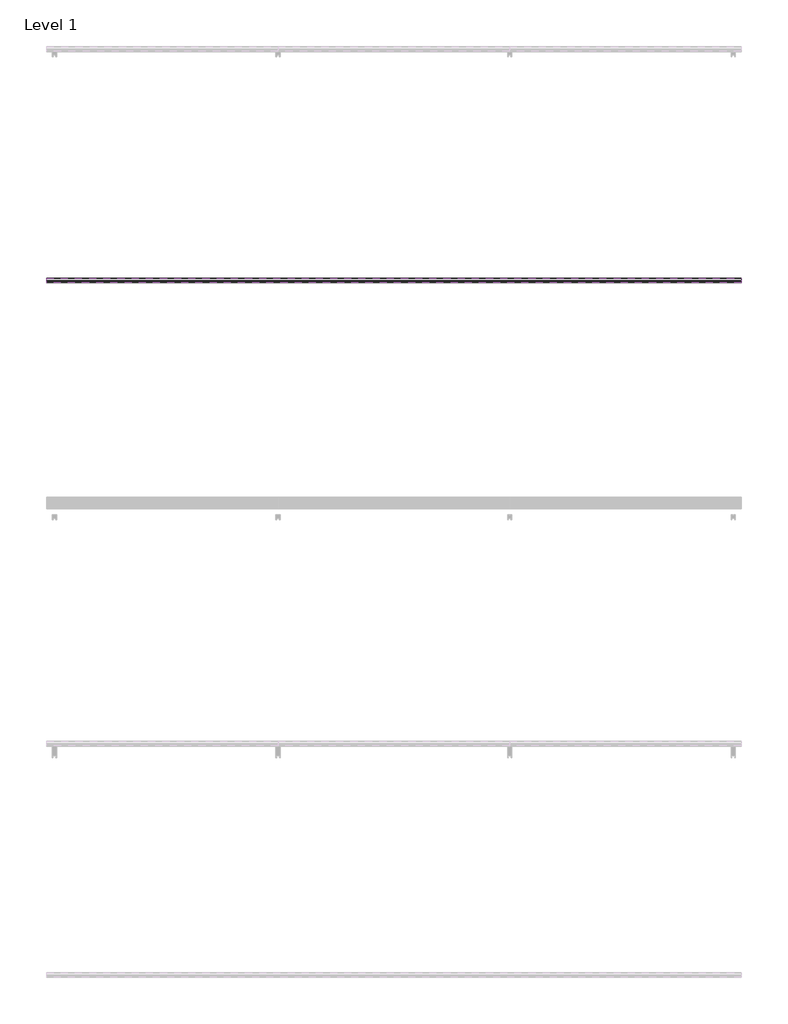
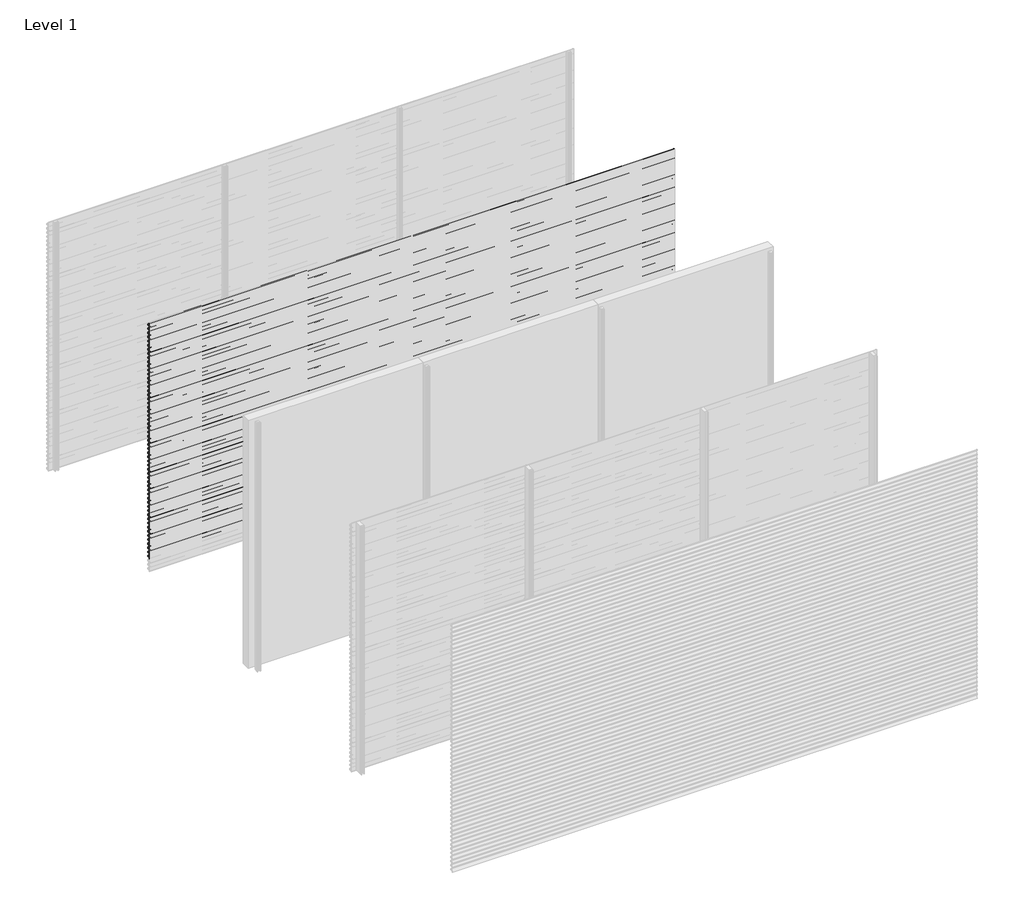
# One storey, part 28 of 38: 66 proxies.
"""IFC4 building model written with IfcOpenShell, lengths in millimetres."""

from ifc_helpers import new_model, si_unit, frame, origin, place, context, project, spatial, polyline, outline, extrude, element, save

model = new_model("IFC4")

# Units and contexts
model_context = context("Model", 3, world=origin())
ifc_project = project(units=[si_unit("LENGTHUNIT", "METRE", prefix="MILLI")], contexts=[model_context])

# Site, building, storey
site = spatial("IfcSite", under=ifc_project)
building = spatial("IfcBuilding", under=site)
storey = spatial("IfcBuildingStorey", under=building, Name="Level 1", Elevation=0.0)

# Proxies
placement = place(None, origin())
element("IfcBuildingElementProxy", 1, Name="Wall Sweeps", at=placement, inside=storey, context=model_context, shape_type="SweptSolid", body=[
    extrude(outline(polyline([(-13996.75, 3000.0), (-13996.75, 2989.19656), (-13974.6057113, 2976.4115489), (-13957.0, 2959.0472005), (-13957.0, 2944.0472005), (-13958.3, 2945.0268207), (-13958.3, 2958.5034593), (-13969.4914725, 2969.541504), (-13994.2797376, 2940.0), (-13995.9767671, 2940.0), (-13970.4200307, 2970.4573323), (-13975.3999793, 2975.3690091), (-13998.0, 2988.4171371), (-13998.0, 3000.0), (-13996.75, 3000.0)])), frame((0.0, 0.0, 0.0), z_axis=(1.0, 0.0, 0.0), x_axis=(0.0, 1.0, 0.0)), (0.0, 0.0, 1.0), 6000.0),
])
element("IfcBuildingElementProxy", 2, Name="Wall Sweeps", at=placement, inside=storey, context=model_context, shape_type="SweptSolid", body=[
    extrude(outline(polyline([(-13996.75, 2950.0), (-13996.75, 2939.19656), (-13974.6057113, 2926.4115489), (-13957.0, 2909.0472005), (-13957.0, 2894.0472005), (-13958.3, 2895.0268207), (-13958.3, 2908.5034593), (-13969.4914725, 2919.541504), (-13994.2797376, 2890.0), (-13995.9767671, 2890.0), (-13970.4200307, 2920.4573323), (-13975.3999793, 2925.3690091), (-13998.0, 2938.4171371), (-13998.0, 2950.0), (-13996.75, 2950.0)])), frame((0.0, 0.0, 0.0), z_axis=(1.0, 0.0, 0.0), x_axis=(0.0, 1.0, 0.0)), (0.0, 0.0, 1.0), 6000.0),
])
element("IfcBuildingElementProxy", 3, Name="Wall Sweeps", at=placement, inside=storey, context=model_context, shape_type="SweptSolid", body=[
    extrude(outline(polyline([(-13996.75, 2900.0), (-13996.75, 2889.19656), (-13974.6057113, 2876.4115489), (-13957.0, 2859.0472005), (-13957.0, 2844.0472005), (-13958.3, 2845.0268207), (-13958.3, 2858.5034593), (-13969.4914725, 2869.541504), (-13994.2797376, 2840.0), (-13995.9767671, 2840.0), (-13970.4200307, 2870.4573323), (-13975.3999793, 2875.3690091), (-13998.0, 2888.4171371), (-13998.0, 2900.0), (-13996.75, 2900.0)])), frame((0.0, 0.0, 0.0), z_axis=(1.0, 0.0, 0.0), x_axis=(0.0, 1.0, 0.0)), (0.0, 0.0, 1.0), 6000.0),
])
element("IfcBuildingElementProxy", 4, Name="Wall Sweeps", at=placement, inside=storey, context=model_context, shape_type="SweptSolid", body=[
    extrude(outline(polyline([(-13996.75, 2850.0), (-13996.75, 2839.19656), (-13974.6057113, 2826.4115489), (-13957.0, 2809.0472005), (-13957.0, 2794.0472005), (-13958.3, 2795.0268207), (-13958.3, 2808.5034593), (-13969.4914725, 2819.541504), (-13994.2797376, 2790.0), (-13995.9767671, 2790.0), (-13970.4200307, 2820.4573323), (-13975.3999793, 2825.3690091), (-13998.0, 2838.4171371), (-13998.0, 2850.0), (-13996.75, 2850.0)])), frame((0.0, 0.0, 0.0), z_axis=(1.0, 0.0, 0.0), x_axis=(0.0, 1.0, 0.0)), (0.0, 0.0, 1.0), 6000.0),
])
element("IfcBuildingElementProxy", 5, Name="Wall Sweeps", at=placement, inside=storey, context=model_context, shape_type="SweptSolid", body=[
    extrude(outline(polyline([(-13996.75, 2800.0), (-13996.75, 2789.19656), (-13974.6057113, 2776.4115489), (-13957.0, 2759.0472005), (-13957.0, 2744.0472005), (-13958.3, 2745.0268207), (-13958.3, 2758.5034593), (-13969.4914725, 2769.541504), (-13994.2797376, 2740.0), (-13995.9767671, 2740.0), (-13970.4200307, 2770.4573323), (-13975.3999793, 2775.3690091), (-13998.0, 2788.4171371), (-13998.0, 2800.0), (-13996.75, 2800.0)])), frame((0.0, 0.0, 0.0), z_axis=(1.0, 0.0, 0.0), x_axis=(0.0, 1.0, 0.0)), (0.0, 0.0, 1.0), 6000.0),
])
element("IfcBuildingElementProxy", 6, Name="Wall Sweeps", at=placement, inside=storey, context=model_context, shape_type="SweptSolid", body=[
    extrude(outline(polyline([(-13996.75, 2750.0), (-13996.75, 2739.19656), (-13974.6057113, 2726.4115489), (-13957.0, 2709.0472005), (-13957.0, 2694.0472005), (-13958.3, 2695.0268207), (-13958.3, 2708.5034593), (-13969.4914725, 2719.541504), (-13994.2797376, 2690.0), (-13995.9767671, 2690.0), (-13970.4200307, 2720.4573323), (-13975.3999793, 2725.3690091), (-13998.0, 2738.4171371), (-13998.0, 2750.0), (-13996.75, 2750.0)])), frame((0.0, 0.0, 0.0), z_axis=(1.0, 0.0, 0.0), x_axis=(0.0, 1.0, 0.0)), (0.0, 0.0, 1.0), 6000.0),
])
element("IfcBuildingElementProxy", 7, Name="Wall Sweeps", at=placement, inside=storey, context=model_context, shape_type="SweptSolid", body=[
    extrude(outline(polyline([(-13996.75, 2700.0), (-13996.75, 2689.19656), (-13974.6057113, 2676.4115489), (-13957.0, 2659.0472005), (-13957.0, 2644.0472005), (-13958.3, 2645.0268207), (-13958.3, 2658.5034593), (-13969.4914725, 2669.541504), (-13994.2797376, 2640.0), (-13995.9767671, 2640.0), (-13970.4200307, 2670.4573323), (-13975.3999793, 2675.3690091), (-13998.0, 2688.4171371), (-13998.0, 2700.0), (-13996.75, 2700.0)])), frame((0.0, 0.0, 0.0), z_axis=(1.0, 0.0, 0.0), x_axis=(0.0, 1.0, 0.0)), (0.0, 0.0, 1.0), 6000.0),
])
element("IfcBuildingElementProxy", 8, Name="Wall Sweeps", at=placement, inside=storey, context=model_context, shape_type="SweptSolid", body=[
    extrude(outline(polyline([(-13996.75, 2650.0), (-13996.75, 2639.19656), (-13974.6057113, 2626.4115489), (-13957.0, 2609.0472005), (-13957.0, 2594.0472005), (-13958.3, 2595.0268207), (-13958.3, 2608.5034593), (-13969.4914725, 2619.541504), (-13994.2797376, 2590.0), (-13995.9767671, 2590.0), (-13970.4200307, 2620.4573323), (-13975.3999793, 2625.3690091), (-13998.0, 2638.4171371), (-13998.0, 2650.0), (-13996.75, 2650.0)])), frame((0.0, 0.0, 0.0), z_axis=(1.0, 0.0, 0.0), x_axis=(0.0, 1.0, 0.0)), (0.0, 0.0, 1.0), 6000.0),
])
element("IfcBuildingElementProxy", 9, Name="Wall Sweeps", at=placement, inside=storey, context=model_context, shape_type="SweptSolid", body=[
    extrude(outline(polyline([(-13996.75, 2600.0), (-13996.75, 2589.19656), (-13974.6057113, 2576.4115489), (-13957.0, 2559.0472005), (-13957.0, 2544.0472005), (-13958.3, 2545.0268207), (-13958.3, 2558.5034593), (-13969.4914725, 2569.541504), (-13994.2797376, 2540.0), (-13995.9767671, 2540.0), (-13970.4200307, 2570.4573323), (-13975.3999793, 2575.3690091), (-13998.0, 2588.4171371), (-13998.0, 2600.0), (-13996.75, 2600.0)])), frame((0.0, 0.0, 0.0), z_axis=(1.0, 0.0, 0.0), x_axis=(0.0, 1.0, 0.0)), (0.0, 0.0, 1.0), 6000.0),
])
element("IfcBuildingElementProxy", 10, Name="Wall Sweeps", at=placement, inside=storey, context=model_context, shape_type="SweptSolid", body=[
    extrude(outline(polyline([(-13996.75, 2550.0), (-13996.75, 2539.19656), (-13974.6057113, 2526.4115489), (-13957.0, 2509.0472005), (-13957.0, 2494.0472005), (-13958.3, 2495.0268207), (-13958.3, 2508.5034593), (-13969.4914725, 2519.541504), (-13994.2797376, 2490.0), (-13995.9767671, 2490.0), (-13970.4200307, 2520.4573323), (-13975.3999793, 2525.3690091), (-13998.0, 2538.4171371), (-13998.0, 2550.0), (-13996.75, 2550.0)])), frame((0.0, 0.0, 0.0), z_axis=(1.0, 0.0, 0.0), x_axis=(0.0, 1.0, 0.0)), (0.0, 0.0, 1.0), 6000.0),
])
element("IfcBuildingElementProxy", 11, Name="Wall Sweeps", at=placement, inside=storey, context=model_context, shape_type="SweptSolid", body=[
    extrude(outline(polyline([(-13996.75, 2500.0), (-13996.75, 2489.19656), (-13974.6057113, 2476.4115489), (-13957.0, 2459.0472005), (-13957.0, 2444.0472005), (-13958.3, 2445.0268207), (-13958.3, 2458.5034593), (-13969.4914725, 2469.541504), (-13994.2797376, 2440.0), (-13995.9767671, 2440.0), (-13970.4200307, 2470.4573323), (-13975.3999793, 2475.3690091), (-13998.0, 2488.4171371), (-13998.0, 2500.0), (-13996.75, 2500.0)])), frame((0.0, 0.0, 0.0), z_axis=(1.0, 0.0, 0.0), x_axis=(0.0, 1.0, 0.0)), (0.0, 0.0, 1.0), 6000.0),
])
element("IfcBuildingElementProxy", 12, Name="Wall Sweeps", at=placement, inside=storey, context=model_context, shape_type="SweptSolid", body=[
    extrude(outline(polyline([(-13996.75, 2450.0), (-13996.75, 2439.19656), (-13974.6057113, 2426.4115489), (-13957.0, 2409.0472005), (-13957.0, 2394.0472005), (-13958.3, 2395.0268207), (-13958.3, 2408.5034593), (-13969.4914725, 2419.541504), (-13994.2797376, 2390.0), (-13995.9767671, 2390.0), (-13970.4200307, 2420.4573323), (-13975.3999793, 2425.3690091), (-13998.0, 2438.4171371), (-13998.0, 2450.0), (-13996.75, 2450.0)])), frame((0.0, 0.0, 0.0), z_axis=(1.0, 0.0, 0.0), x_axis=(0.0, 1.0, 0.0)), (0.0, 0.0, 1.0), 6000.0),
])
element("IfcBuildingElementProxy", 13, Name="Wall Sweeps", at=placement, inside=storey, context=model_context, shape_type="SweptSolid", body=[
    extrude(outline(polyline([(-13996.75, 2400.0), (-13996.75, 2389.19656), (-13974.6057113, 2376.4115489), (-13957.0, 2359.0472005), (-13957.0, 2344.0472005), (-13958.3, 2345.0268207), (-13958.3, 2358.5034593), (-13969.4914725, 2369.541504), (-13994.2797376, 2340.0), (-13995.9767671, 2340.0), (-13970.4200307, 2370.4573323), (-13975.3999793, 2375.3690091), (-13998.0, 2388.4171371), (-13998.0, 2400.0), (-13996.75, 2400.0)])), frame((0.0, 0.0, 0.0), z_axis=(1.0, 0.0, 0.0), x_axis=(0.0, 1.0, 0.0)), (0.0, 0.0, 1.0), 6000.0),
])
element("IfcBuildingElementProxy", 14, Name="Wall Sweeps", at=placement, inside=storey, context=model_context, shape_type="SweptSolid", body=[
    extrude(outline(polyline([(-13996.75, 2350.0), (-13996.75, 2339.19656), (-13974.6057113, 2326.4115489), (-13957.0, 2309.0472005), (-13957.0, 2294.0472005), (-13958.3, 2295.0268207), (-13958.3, 2308.5034593), (-13969.4914725, 2319.541504), (-13994.2797376, 2290.0), (-13995.9767671, 2290.0), (-13970.4200307, 2320.4573323), (-13975.3999793, 2325.3690091), (-13998.0, 2338.4171371), (-13998.0, 2350.0), (-13996.75, 2350.0)])), frame((0.0, 0.0, 0.0), z_axis=(1.0, 0.0, 0.0), x_axis=(0.0, 1.0, 0.0)), (0.0, 0.0, 1.0), 6000.0),
])
element("IfcBuildingElementProxy", 15, Name="Wall Sweeps", at=placement, inside=storey, context=model_context, shape_type="SweptSolid", body=[
    extrude(outline(polyline([(-13996.75, 2300.0), (-13996.75, 2289.19656), (-13974.6057113, 2276.4115489), (-13957.0, 2259.0472005), (-13957.0, 2244.0472005), (-13958.3, 2245.0268207), (-13958.3, 2258.5034593), (-13969.4914725, 2269.541504), (-13994.2797376, 2240.0), (-13995.9767671, 2240.0), (-13970.4200307, 2270.4573323), (-13975.3999793, 2275.3690091), (-13998.0, 2288.4171371), (-13998.0, 2300.0), (-13996.75, 2300.0)])), frame((0.0, 0.0, 0.0), z_axis=(1.0, 0.0, 0.0), x_axis=(0.0, 1.0, 0.0)), (0.0, 0.0, 1.0), 6000.0),
])
element("IfcBuildingElementProxy", 16, Name="Wall Sweeps", at=placement, inside=storey, context=model_context, shape_type="SweptSolid", body=[
    extrude(outline(polyline([(-13996.75, 2250.0), (-13996.75, 2239.19656), (-13974.6057113, 2226.4115489), (-13957.0, 2209.0472005), (-13957.0, 2194.0472005), (-13958.3, 2195.0268207), (-13958.3, 2208.5034593), (-13969.4914725, 2219.541504), (-13994.2797376, 2190.0), (-13995.9767671, 2190.0), (-13970.4200307, 2220.4573323), (-13975.3999793, 2225.3690091), (-13998.0, 2238.4171371), (-13998.0, 2250.0), (-13996.75, 2250.0)])), frame((0.0, 0.0, 0.0), z_axis=(1.0, 0.0, 0.0), x_axis=(0.0, 1.0, 0.0)), (0.0, 0.0, 1.0), 6000.0),
])
element("IfcBuildingElementProxy", 17, Name="Wall Sweeps", at=placement, inside=storey, context=model_context, shape_type="SweptSolid", body=[
    extrude(outline(polyline([(-13996.75, 2200.0), (-13996.75, 2189.19656), (-13974.6057113, 2176.4115489), (-13957.0, 2159.0472005), (-13957.0, 2144.0472005), (-13958.3, 2145.0268207), (-13958.3, 2158.5034593), (-13969.4914725, 2169.541504), (-13994.2797376, 2140.0), (-13995.9767671, 2140.0), (-13970.4200307, 2170.4573323), (-13975.3999793, 2175.3690091), (-13998.0, 2188.4171371), (-13998.0, 2200.0), (-13996.75, 2200.0)])), frame((0.0, 0.0, 0.0), z_axis=(1.0, 0.0, 0.0), x_axis=(0.0, 1.0, 0.0)), (0.0, 0.0, 1.0), 6000.0),
])
element("IfcBuildingElementProxy", 18, Name="Wall Sweeps", at=placement, inside=storey, context=model_context, shape_type="SweptSolid", body=[
    extrude(outline(polyline([(-13996.75, 2150.0), (-13996.75, 2139.19656), (-13974.6057113, 2126.4115489), (-13957.0, 2109.0472005), (-13957.0, 2094.0472005), (-13958.3, 2095.0268207), (-13958.3, 2108.5034593), (-13969.4914725, 2119.541504), (-13994.2797376, 2090.0), (-13995.9767671, 2090.0), (-13970.4200307, 2120.4573323), (-13975.3999793, 2125.3690091), (-13998.0, 2138.4171371), (-13998.0, 2150.0), (-13996.75, 2150.0)])), frame((0.0, 0.0, 0.0), z_axis=(1.0, 0.0, 0.0), x_axis=(0.0, 1.0, 0.0)), (0.0, 0.0, 1.0), 6000.0),
])
element("IfcBuildingElementProxy", 19, Name="Wall Sweeps", at=placement, inside=storey, context=model_context, shape_type="SweptSolid", body=[
    extrude(outline(polyline([(-13996.75, 2100.0), (-13996.75, 2089.19656), (-13974.6057113, 2076.4115489), (-13957.0, 2059.0472005), (-13957.0, 2044.0472005), (-13958.3, 2045.0268207), (-13958.3, 2058.5034593), (-13969.4914725, 2069.541504), (-13994.2797376, 2040.0), (-13995.9767671, 2040.0), (-13970.4200307, 2070.4573323), (-13975.3999793, 2075.3690091), (-13998.0, 2088.4171371), (-13998.0, 2100.0), (-13996.75, 2100.0)])), frame((0.0, 0.0, 0.0), z_axis=(1.0, 0.0, 0.0), x_axis=(0.0, 1.0, 0.0)), (0.0, 0.0, 1.0), 6000.0),
])
element("IfcBuildingElementProxy", 20, Name="Wall Sweeps", at=placement, inside=storey, context=model_context, shape_type="SweptSolid", body=[
    extrude(outline(polyline([(-13996.75, 2050.0), (-13996.75, 2039.19656), (-13974.6057113, 2026.4115489), (-13957.0, 2009.0472005), (-13957.0, 1994.0472005), (-13958.3, 1995.0268207), (-13958.3, 2008.5034593), (-13969.4914725, 2019.541504), (-13994.2797376, 1990.0), (-13995.9767671, 1990.0), (-13970.4200307, 2020.4573323), (-13975.3999793, 2025.3690091), (-13998.0, 2038.4171371), (-13998.0, 2050.0), (-13996.75, 2050.0)])), frame((0.0, 0.0, 0.0), z_axis=(1.0, 0.0, 0.0), x_axis=(0.0, 1.0, 0.0)), (0.0, 0.0, 1.0), 6000.0),
])
element("IfcBuildingElementProxy", 21, Name="Wall Sweeps", at=placement, inside=storey, context=model_context, shape_type="SweptSolid", body=[
    extrude(outline(polyline([(-13996.75, 2000.0), (-13996.75, 1989.19656), (-13974.6057113, 1976.4115489), (-13957.0, 1959.0472005), (-13957.0, 1944.0472005), (-13958.3, 1945.0268207), (-13958.3, 1958.5034593), (-13969.4914725, 1969.541504), (-13994.2797376, 1940.0), (-13995.9767671, 1940.0), (-13970.4200307, 1970.4573323), (-13975.3999793, 1975.3690091), (-13998.0, 1988.4171371), (-13998.0, 2000.0), (-13996.75, 2000.0)])), frame((0.0, 0.0, 0.0), z_axis=(1.0, 0.0, 0.0), x_axis=(0.0, 1.0, 0.0)), (0.0, 0.0, 1.0), 6000.0),
])
element("IfcBuildingElementProxy", 22, Name="Wall Sweeps", at=placement, inside=storey, context=model_context, shape_type="SweptSolid", body=[
    extrude(outline(polyline([(-13996.75, 1950.0), (-13996.75, 1939.19656), (-13974.6057113, 1926.4115489), (-13957.0, 1909.0472005), (-13957.0, 1894.0472005), (-13958.3, 1895.0268207), (-13958.3, 1908.5034593), (-13969.4914725, 1919.541504), (-13994.2797376, 1890.0), (-13995.9767671, 1890.0), (-13970.4200307, 1920.4573323), (-13975.3999793, 1925.3690091), (-13998.0, 1938.4171371), (-13998.0, 1950.0), (-13996.75, 1950.0)])), frame((0.0, 0.0, 0.0), z_axis=(1.0, 0.0, 0.0), x_axis=(0.0, 1.0, 0.0)), (0.0, 0.0, 1.0), 6000.0),
])
element("IfcBuildingElementProxy", 23, Name="Wall Sweeps", at=placement, inside=storey, context=model_context, shape_type="SweptSolid", body=[
    extrude(outline(polyline([(-13996.75, 1900.0), (-13996.75, 1889.19656), (-13974.6057113, 1876.4115489), (-13957.0, 1859.0472005), (-13957.0, 1844.0472005), (-13958.3, 1845.0268207), (-13958.3, 1858.5034593), (-13969.4914725, 1869.541504), (-13994.2797376, 1840.0), (-13995.9767671, 1840.0), (-13970.4200307, 1870.4573323), (-13975.3999793, 1875.3690091), (-13998.0, 1888.4171371), (-13998.0, 1900.0), (-13996.75, 1900.0)])), frame((0.0, 0.0, 0.0), z_axis=(1.0, 0.0, 0.0), x_axis=(0.0, 1.0, 0.0)), (0.0, 0.0, 1.0), 6000.0),
])
element("IfcBuildingElementProxy", 24, Name="Wall Sweeps", at=placement, inside=storey, context=model_context, shape_type="SweptSolid", body=[
    extrude(outline(polyline([(-13996.75, 1850.0), (-13996.75, 1839.19656), (-13974.6057113, 1826.4115489), (-13957.0, 1809.0472005), (-13957.0, 1794.0472005), (-13958.3, 1795.0268207), (-13958.3, 1808.5034593), (-13969.4914725, 1819.541504), (-13994.2797376, 1790.0), (-13995.9767671, 1790.0), (-13970.4200307, 1820.4573323), (-13975.3999793, 1825.3690091), (-13998.0, 1838.4171371), (-13998.0, 1850.0), (-13996.75, 1850.0)])), frame((0.0, 0.0, 0.0), z_axis=(1.0, 0.0, 0.0), x_axis=(0.0, 1.0, 0.0)), (0.0, 0.0, 1.0), 6000.0),
])
element("IfcBuildingElementProxy", 25, Name="Wall Sweeps", at=placement, inside=storey, context=model_context, shape_type="SweptSolid", body=[
    extrude(outline(polyline([(-13996.75, 1800.0), (-13996.75, 1789.19656), (-13974.6057113, 1776.4115489), (-13957.0, 1759.0472005), (-13957.0, 1744.0472005), (-13958.3, 1745.0268207), (-13958.3, 1758.5034593), (-13969.4914725, 1769.541504), (-13994.2797376, 1740.0), (-13995.9767671, 1740.0), (-13970.4200307, 1770.4573323), (-13975.3999793, 1775.3690091), (-13998.0, 1788.4171371), (-13998.0, 1800.0), (-13996.75, 1800.0)])), frame((0.0, 0.0, 0.0), z_axis=(1.0, 0.0, 0.0), x_axis=(0.0, 1.0, 0.0)), (0.0, 0.0, 1.0), 6000.0),
])
element("IfcBuildingElementProxy", 26, Name="Wall Sweeps", at=placement, inside=storey, context=model_context, shape_type="SweptSolid", body=[
    extrude(outline(polyline([(-13996.75, 1750.0), (-13996.75, 1739.19656), (-13974.6057113, 1726.4115489), (-13957.0, 1709.0472005), (-13957.0, 1694.0472005), (-13958.3, 1695.0268207), (-13958.3, 1708.5034593), (-13969.4914725, 1719.541504), (-13994.2797376, 1690.0), (-13995.9767671, 1690.0), (-13970.4200307, 1720.4573323), (-13975.3999793, 1725.3690091), (-13998.0, 1738.4171371), (-13998.0, 1750.0), (-13996.75, 1750.0)])), frame((0.0, 0.0, 0.0), z_axis=(1.0, 0.0, 0.0), x_axis=(0.0, 1.0, 0.0)), (0.0, 0.0, 1.0), 6000.0),
])
element("IfcBuildingElementProxy", 27, Name="Wall Sweeps", at=placement, inside=storey, context=model_context, shape_type="SweptSolid", body=[
    extrude(outline(polyline([(-13996.75, 1700.0), (-13996.75, 1689.19656), (-13974.6057113, 1676.4115489), (-13957.0, 1659.0472005), (-13957.0, 1644.0472005), (-13958.3, 1645.0268207), (-13958.3, 1658.5034593), (-13969.4914725, 1669.541504), (-13994.2797376, 1640.0), (-13995.9767671, 1640.0), (-13970.4200307, 1670.4573323), (-13975.3999793, 1675.3690091), (-13998.0, 1688.4171371), (-13998.0, 1700.0), (-13996.75, 1700.0)])), frame((0.0, 0.0, 0.0), z_axis=(1.0, 0.0, 0.0), x_axis=(0.0, 1.0, 0.0)), (0.0, 0.0, 1.0), 6000.0),
])
element("IfcBuildingElementProxy", 28, Name="Wall Sweeps", at=placement, inside=storey, context=model_context, shape_type="SweptSolid", body=[
    extrude(outline(polyline([(-13996.75, 1650.0), (-13996.75, 1639.19656), (-13974.6057113, 1626.4115489), (-13957.0, 1609.0472005), (-13957.0, 1594.0472005), (-13958.3, 1595.0268207), (-13958.3, 1608.5034593), (-13969.4914725, 1619.541504), (-13994.2797376, 1590.0), (-13995.9767671, 1590.0), (-13970.4200307, 1620.4573323), (-13975.3999793, 1625.3690091), (-13998.0, 1638.4171371), (-13998.0, 1650.0), (-13996.75, 1650.0)])), frame((0.0, 0.0, 0.0), z_axis=(1.0, 0.0, 0.0), x_axis=(0.0, 1.0, 0.0)), (0.0, 0.0, 1.0), 6000.0),
])
element("IfcBuildingElementProxy", 29, Name="Wall Sweeps", at=placement, inside=storey, context=model_context, shape_type="SweptSolid", body=[
    extrude(outline(polyline([(-13996.75, 1600.0), (-13996.75, 1589.19656), (-13974.6057113, 1576.4115489), (-13957.0, 1559.0472005), (-13957.0, 1544.0472005), (-13958.3, 1545.0268207), (-13958.3, 1558.5034593), (-13969.4914725, 1569.541504), (-13994.2797376, 1540.0), (-13995.9767671, 1540.0), (-13970.4200307, 1570.4573323), (-13975.3999793, 1575.3690091), (-13998.0, 1588.4171371), (-13998.0, 1600.0), (-13996.75, 1600.0)])), frame((0.0, 0.0, 0.0), z_axis=(1.0, 0.0, 0.0), x_axis=(0.0, 1.0, 0.0)), (0.0, 0.0, 1.0), 6000.0),
])
element("IfcBuildingElementProxy", 30, Name="Wall Sweeps", at=placement, inside=storey, context=model_context, shape_type="SweptSolid", body=[
    extrude(outline(polyline([(-13996.75, 1550.0), (-13996.75, 1539.19656), (-13974.6057113, 1526.4115489), (-13957.0, 1509.0472005), (-13957.0, 1494.0472005), (-13958.3, 1495.0268207), (-13958.3, 1508.5034593), (-13969.4914725, 1519.541504), (-13994.2797376, 1490.0), (-13995.9767671, 1490.0), (-13970.4200307, 1520.4573323), (-13975.3999793, 1525.3690091), (-13998.0, 1538.4171371), (-13998.0, 1550.0), (-13996.75, 1550.0)])), frame((0.0, 0.0, 0.0), z_axis=(1.0, 0.0, 0.0), x_axis=(0.0, 1.0, 0.0)), (0.0, 0.0, 1.0), 6000.0),
])
element("IfcBuildingElementProxy", 31, Name="Wall Sweeps", at=placement, inside=storey, context=model_context, shape_type="SweptSolid", body=[
    extrude(outline(polyline([(-13996.75, 1500.0), (-13996.75, 1489.19656), (-13974.6057113, 1476.4115489), (-13957.0, 1459.0472005), (-13957.0, 1444.0472005), (-13958.3, 1445.0268207), (-13958.3, 1458.5034593), (-13969.4914725, 1469.541504), (-13994.2797376, 1440.0), (-13995.9767671, 1440.0), (-13970.4200307, 1470.4573323), (-13975.3999793, 1475.3690091), (-13998.0, 1488.4171371), (-13998.0, 1500.0), (-13996.75, 1500.0)])), frame((0.0, 0.0, 0.0), z_axis=(1.0, 0.0, 0.0), x_axis=(0.0, 1.0, 0.0)), (0.0, 0.0, 1.0), 6000.0),
])
element("IfcBuildingElementProxy", 32, Name="Wall Sweeps", at=placement, inside=storey, context=model_context, shape_type="SweptSolid", body=[
    extrude(outline(polyline([(-13996.75, 1450.0), (-13996.75, 1439.19656), (-13974.6057113, 1426.4115489), (-13957.0, 1409.0472005), (-13957.0, 1394.0472005), (-13958.3, 1395.0268207), (-13958.3, 1408.5034593), (-13969.4914725, 1419.541504), (-13994.2797376, 1390.0), (-13995.9767671, 1390.0), (-13970.4200307, 1420.4573323), (-13975.3999793, 1425.3690091), (-13998.0, 1438.4171371), (-13998.0, 1450.0), (-13996.75, 1450.0)])), frame((0.0, 0.0, 0.0), z_axis=(1.0, 0.0, 0.0), x_axis=(0.0, 1.0, 0.0)), (0.0, 0.0, 1.0), 6000.0),
])
element("IfcBuildingElementProxy", 33, Name="Wall Sweeps", at=placement, inside=storey, context=model_context, shape_type="SweptSolid", body=[
    extrude(outline(polyline([(-13996.75, 1400.0), (-13996.75, 1389.19656), (-13974.6057113, 1376.4115489), (-13957.0, 1359.0472005), (-13957.0, 1344.0472005), (-13958.3, 1345.0268207), (-13958.3, 1358.5034593), (-13969.4914725, 1369.541504), (-13994.2797376, 1340.0), (-13995.9767671, 1340.0), (-13970.4200307, 1370.4573323), (-13975.3999793, 1375.3690091), (-13998.0, 1388.4171371), (-13998.0, 1400.0), (-13996.75, 1400.0)])), frame((0.0, 0.0, 0.0), z_axis=(1.0, 0.0, 0.0), x_axis=(0.0, 1.0, 0.0)), (0.0, 0.0, 1.0), 6000.0),
])
element("IfcBuildingElementProxy", 34, Name="Wall Sweeps", at=placement, inside=storey, context=model_context, shape_type="SweptSolid", body=[
    extrude(outline(polyline([(-13996.75, 1350.0), (-13996.75, 1339.19656), (-13974.6057113, 1326.4115489), (-13957.0, 1309.0472005), (-13957.0, 1294.0472005), (-13958.3, 1295.0268207), (-13958.3, 1308.5034593), (-13969.4914725, 1319.541504), (-13994.2797376, 1290.0), (-13995.9767671, 1290.0), (-13970.4200307, 1320.4573323), (-13975.3999793, 1325.3690091), (-13998.0, 1338.4171371), (-13998.0, 1350.0), (-13996.75, 1350.0)])), frame((0.0, 0.0, 0.0), z_axis=(1.0, 0.0, 0.0), x_axis=(0.0, 1.0, 0.0)), (0.0, 0.0, 1.0), 6000.0),
])
element("IfcBuildingElementProxy", 35, Name="Wall Sweeps", at=placement, inside=storey, context=model_context, shape_type="SweptSolid", body=[
    extrude(outline(polyline([(-13996.75, 1300.0), (-13996.75, 1289.19656), (-13974.6057113, 1276.4115489), (-13957.0, 1259.0472005), (-13957.0, 1244.0472005), (-13958.3, 1245.0268207), (-13958.3, 1258.5034593), (-13969.4914725, 1269.541504), (-13994.2797376, 1240.0), (-13995.9767671, 1240.0), (-13970.4200307, 1270.4573323), (-13975.3999793, 1275.3690091), (-13998.0, 1288.4171371), (-13998.0, 1300.0), (-13996.75, 1300.0)])), frame((0.0, 0.0, 0.0), z_axis=(1.0, 0.0, 0.0), x_axis=(0.0, 1.0, 0.0)), (0.0, 0.0, 1.0), 6000.0),
])
element("IfcBuildingElementProxy", 36, Name="Wall Sweeps", at=placement, inside=storey, context=model_context, shape_type="SweptSolid", body=[
    extrude(outline(polyline([(-13996.75, 1250.0), (-13996.75, 1239.19656), (-13974.6057113, 1226.4115489), (-13957.0, 1209.0472005), (-13957.0, 1194.0472005), (-13958.3, 1195.0268207), (-13958.3, 1208.5034593), (-13969.4914725, 1219.541504), (-13994.2797376, 1190.0), (-13995.9767671, 1190.0), (-13970.4200307, 1220.4573323), (-13975.3999793, 1225.3690091), (-13998.0, 1238.4171371), (-13998.0, 1250.0), (-13996.75, 1250.0)])), frame((0.0, 0.0, 0.0), z_axis=(1.0, 0.0, 0.0), x_axis=(0.0, 1.0, 0.0)), (0.0, 0.0, 1.0), 6000.0),
])
element("IfcBuildingElementProxy", 37, Name="Wall Sweeps", at=placement, inside=storey, context=model_context, shape_type="SweptSolid", body=[
    extrude(outline(polyline([(-13996.75, 1200.0), (-13996.75, 1189.19656), (-13974.6057113, 1176.4115489), (-13957.0, 1159.0472005), (-13957.0, 1144.0472005), (-13958.3, 1145.0268207), (-13958.3, 1158.5034593), (-13969.4914725, 1169.541504), (-13994.2797376, 1140.0), (-13995.9767671, 1140.0), (-13970.4200307, 1170.4573323), (-13975.3999793, 1175.3690091), (-13998.0, 1188.4171371), (-13998.0, 1200.0), (-13996.75, 1200.0)])), frame((0.0, 0.0, 0.0), z_axis=(1.0, 0.0, 0.0), x_axis=(0.0, 1.0, 0.0)), (0.0, 0.0, 1.0), 6000.0),
])
element("IfcBuildingElementProxy", 38, Name="Wall Sweeps", at=placement, inside=storey, context=model_context, shape_type="SweptSolid", body=[
    extrude(outline(polyline([(-13996.75, 1150.0), (-13996.75, 1139.19656), (-13974.6057113, 1126.4115489), (-13957.0, 1109.0472005), (-13957.0, 1094.0472005), (-13958.3, 1095.0268207), (-13958.3, 1108.5034593), (-13969.4914725, 1119.541504), (-13994.2797376, 1090.0), (-13995.9767671, 1090.0), (-13970.4200307, 1120.4573323), (-13975.3999793, 1125.3690091), (-13998.0, 1138.4171371), (-13998.0, 1150.0), (-13996.75, 1150.0)])), frame((0.0, 0.0, 0.0), z_axis=(1.0, 0.0, 0.0), x_axis=(0.0, 1.0, 0.0)), (0.0, 0.0, 1.0), 6000.0),
])
element("IfcBuildingElementProxy", 39, Name="Wall Sweeps", at=placement, inside=storey, context=model_context, shape_type="SweptSolid", body=[
    extrude(outline(polyline([(-13996.75, 1100.0), (-13996.75, 1089.19656), (-13974.6057113, 1076.4115489), (-13957.0, 1059.0472005), (-13957.0, 1044.0472005), (-13958.3, 1045.0268207), (-13958.3, 1058.5034593), (-13969.4914725, 1069.541504), (-13994.2797376, 1040.0), (-13995.9767671, 1040.0), (-13970.4200307, 1070.4573323), (-13975.3999793, 1075.3690091), (-13998.0, 1088.4171371), (-13998.0, 1100.0), (-13996.75, 1100.0)])), frame((0.0, 0.0, 0.0), z_axis=(1.0, 0.0, 0.0), x_axis=(0.0, 1.0, 0.0)), (0.0, 0.0, 1.0), 6000.0),
])
element("IfcBuildingElementProxy", 40, Name="Wall Sweeps", at=placement, inside=storey, context=model_context, shape_type="SweptSolid", body=[
    extrude(outline(polyline([(-13996.75, 1050.0), (-13996.75, 1039.19656), (-13974.6057113, 1026.4115489), (-13957.0, 1009.0472005), (-13957.0, 994.0472005), (-13958.3, 995.0268207), (-13958.3, 1008.5034593), (-13969.4914725, 1019.541504), (-13994.2797376, 990.0), (-13995.9767671, 990.0), (-13970.4200307, 1020.4573323), (-13975.3999793, 1025.3690091), (-13998.0, 1038.4171371), (-13998.0, 1050.0), (-13996.75, 1050.0)])), frame((0.0, 0.0, 0.0), z_axis=(1.0, 0.0, 0.0), x_axis=(0.0, 1.0, 0.0)), (0.0, 0.0, 1.0), 6000.0),
])
element("IfcBuildingElementProxy", 41, Name="Wall Sweeps", at=placement, inside=storey, context=model_context, shape_type="SweptSolid", body=[
    extrude(outline(polyline([(-13996.75, 1000.0), (-13996.75, 989.19656), (-13974.6057113, 976.4115489), (-13957.0, 959.0472005), (-13957.0, 944.0472005), (-13958.3, 945.0268207), (-13958.3, 958.5034593), (-13969.4914725, 969.541504), (-13994.2797376, 940.0), (-13995.9767671, 940.0), (-13970.4200307, 970.4573323), (-13975.3999793, 975.3690091), (-13998.0, 988.4171371), (-13998.0, 1000.0), (-13996.75, 1000.0)])), frame((0.0, 0.0, 0.0), z_axis=(1.0, 0.0, 0.0), x_axis=(0.0, 1.0, 0.0)), (0.0, 0.0, 1.0), 6000.0),
])
element("IfcBuildingElementProxy", 42, Name="Wall Sweeps", at=placement, inside=storey, context=model_context, shape_type="SweptSolid", body=[
    extrude(outline(polyline([(-13996.75, 950.0), (-13996.75, 939.19656), (-13974.6057113, 926.4115489), (-13957.0, 909.0472005), (-13957.0, 894.0472005), (-13958.3, 895.0268207), (-13958.3, 908.5034593), (-13969.4914725, 919.541504), (-13994.2797376, 890.0), (-13995.9767671, 890.0), (-13970.4200307, 920.4573323), (-13975.3999793, 925.3690091), (-13998.0, 938.4171371), (-13998.0, 950.0), (-13996.75, 950.0)])), frame((0.0, 0.0, 0.0), z_axis=(1.0, 0.0, 0.0), x_axis=(0.0, 1.0, 0.0)), (0.0, 0.0, 1.0), 6000.0),
])
element("IfcBuildingElementProxy", 43, Name="Wall Sweeps", at=placement, inside=storey, context=model_context, shape_type="SweptSolid", body=[
    extrude(outline(polyline([(-13996.75, 900.0), (-13996.75, 889.19656), (-13974.6057113, 876.4115489), (-13957.0, 859.0472005), (-13957.0, 844.0472005), (-13958.3, 845.0268207), (-13958.3, 858.5034593), (-13969.4914725, 869.541504), (-13994.2797376, 840.0), (-13995.9767671, 840.0), (-13970.4200307, 870.4573323), (-13975.3999793, 875.3690091), (-13998.0, 888.4171371), (-13998.0, 900.0), (-13996.75, 900.0)])), frame((0.0, 0.0, 0.0), z_axis=(1.0, 0.0, 0.0), x_axis=(0.0, 1.0, 0.0)), (0.0, 0.0, 1.0), 6000.0),
])
element("IfcBuildingElementProxy", 44, Name="Wall Sweeps", at=placement, inside=storey, context=model_context, shape_type="SweptSolid", body=[
    extrude(outline(polyline([(-13996.75, 850.0), (-13996.75, 839.19656), (-13974.6057113, 826.4115489), (-13957.0, 809.0472005), (-13957.0, 794.0472005), (-13958.3, 795.0268207), (-13958.3, 808.5034593), (-13969.4914725, 819.541504), (-13994.2797376, 790.0), (-13995.9767671, 790.0), (-13970.4200307, 820.4573323), (-13975.3999793, 825.3690091), (-13998.0, 838.4171371), (-13998.0, 850.0), (-13996.75, 850.0)])), frame((0.0, 0.0, 0.0), z_axis=(1.0, 0.0, 0.0), x_axis=(0.0, 1.0, 0.0)), (0.0, 0.0, 1.0), 6000.0),
])
element("IfcBuildingElementProxy", 45, Name="Wall Sweeps", at=placement, inside=storey, context=model_context, shape_type="SweptSolid", body=[
    extrude(outline(polyline([(-13996.75, 800.0), (-13996.75, 789.19656), (-13974.6057113, 776.4115489), (-13957.0, 759.0472005), (-13957.0, 744.0472005), (-13958.3, 745.0268207), (-13958.3, 758.5034593), (-13969.4914725, 769.541504), (-13994.2797376, 740.0), (-13995.9767671, 740.0), (-13970.4200307, 770.4573323), (-13975.3999793, 775.3690091), (-13998.0, 788.4171371), (-13998.0, 800.0), (-13996.75, 800.0)])), frame((0.0, 0.0, 0.0), z_axis=(1.0, 0.0, 0.0), x_axis=(0.0, 1.0, 0.0)), (0.0, 0.0, 1.0), 6000.0),
])
element("IfcBuildingElementProxy", 46, Name="Wall Sweeps", at=placement, inside=storey, context=model_context, shape_type="SweptSolid", body=[
    extrude(outline(polyline([(-13996.75, 750.0), (-13996.75, 739.19656), (-13974.6057113, 726.4115489), (-13957.0, 709.0472005), (-13957.0, 694.0472005), (-13958.3, 695.0268207), (-13958.3, 708.5034593), (-13969.4914725, 719.541504), (-13994.2797376, 690.0), (-13995.9767671, 690.0), (-13970.4200307, 720.4573323), (-13975.3999793, 725.3690091), (-13998.0, 738.4171371), (-13998.0, 750.0), (-13996.75, 750.0)])), frame((0.0, 0.0, 0.0), z_axis=(1.0, 0.0, 0.0), x_axis=(0.0, 1.0, 0.0)), (0.0, 0.0, 1.0), 6000.0),
])
element("IfcBuildingElementProxy", 47, Name="Wall Sweeps", at=placement, inside=storey, context=model_context, shape_type="SweptSolid", body=[
    extrude(outline(polyline([(-13996.75, 700.0), (-13996.75, 689.19656), (-13974.6057113, 676.4115489), (-13957.0, 659.0472005), (-13957.0, 644.0472005), (-13958.3, 645.0268207), (-13958.3, 658.5034593), (-13969.4914725, 669.541504), (-13994.2797376, 640.0), (-13995.9767671, 640.0), (-13970.4200307, 670.4573323), (-13975.3999793, 675.3690091), (-13998.0, 688.4171371), (-13998.0, 700.0), (-13996.75, 700.0)])), frame((0.0, 0.0, 0.0), z_axis=(1.0, 0.0, 0.0), x_axis=(0.0, 1.0, 0.0)), (0.0, 0.0, 1.0), 6000.0),
])
element("IfcBuildingElementProxy", 48, Name="Wall Sweeps", at=placement, inside=storey, context=model_context, shape_type="SweptSolid", body=[
    extrude(outline(polyline([(-13996.75, 650.0), (-13996.75, 639.19656), (-13974.6057113, 626.4115489), (-13957.0, 609.0472005), (-13957.0, 594.0472005), (-13958.3, 595.0268207), (-13958.3, 608.5034593), (-13969.4914725, 619.541504), (-13994.2797376, 590.0), (-13995.9767671, 590.0), (-13970.4200307, 620.4573323), (-13975.3999793, 625.3690091), (-13998.0, 638.4171371), (-13998.0, 650.0), (-13996.75, 650.0)])), frame((0.0, 0.0, 0.0), z_axis=(1.0, 0.0, 0.0), x_axis=(0.0, 1.0, 0.0)), (0.0, 0.0, 1.0), 6000.0),
])
element("IfcBuildingElementProxy", 49, Name="Wall Sweeps", at=placement, inside=storey, context=model_context, shape_type="SweptSolid", body=[
    extrude(outline(polyline([(-13996.75, 600.0), (-13996.75, 589.19656), (-13974.6057113, 576.4115489), (-13957.0, 559.0472005), (-13957.0, 544.0472005), (-13958.3, 545.0268207), (-13958.3, 558.5034593), (-13969.4914725, 569.541504), (-13994.2797376, 540.0), (-13995.9767671, 540.0), (-13970.4200307, 570.4573323), (-13975.3999793, 575.3690091), (-13998.0, 588.4171371), (-13998.0, 600.0), (-13996.75, 600.0)])), frame((0.0, 0.0, 0.0), z_axis=(1.0, 0.0, 0.0), x_axis=(0.0, 1.0, 0.0)), (0.0, 0.0, 1.0), 6000.0),
])
element("IfcBuildingElementProxy", 50, Name="Wall Sweeps", at=placement, inside=storey, context=model_context, shape_type="SweptSolid", body=[
    extrude(outline(polyline([(-13996.75, 550.0), (-13996.75, 539.19656), (-13974.6057113, 526.4115489), (-13957.0, 509.0472005), (-13957.0, 494.0472005), (-13958.3, 495.0268207), (-13958.3, 508.5034593), (-13969.4914725, 519.541504), (-13994.2797376, 490.0), (-13995.9767671, 490.0), (-13970.4200307, 520.4573323), (-13975.3999793, 525.3690091), (-13998.0, 538.4171371), (-13998.0, 550.0), (-13996.75, 550.0)])), frame((0.0, 0.0, 0.0), z_axis=(1.0, 0.0, 0.0), x_axis=(0.0, 1.0, 0.0)), (0.0, 0.0, 1.0), 6000.0),
])
element("IfcBuildingElementProxy", 51, Name="Wall Sweeps", at=placement, inside=storey, context=model_context, shape_type="SweptSolid", body=[
    extrude(outline(polyline([(-13996.75, 500.0), (-13996.75, 489.19656), (-13974.6057113, 476.4115489), (-13957.0, 459.0472005), (-13957.0, 444.0472005), (-13958.3, 445.0268207), (-13958.3, 458.5034593), (-13969.4914725, 469.541504), (-13994.2797376, 440.0), (-13995.9767671, 440.0), (-13970.4200307, 470.4573323), (-13975.3999793, 475.3690091), (-13998.0, 488.4171371), (-13998.0, 500.0), (-13996.75, 500.0)])), frame((0.0, 0.0, 0.0), z_axis=(1.0, 0.0, 0.0), x_axis=(0.0, 1.0, 0.0)), (0.0, 0.0, 1.0), 6000.0),
])
element("IfcBuildingElementProxy", 52, Name="Wall Sweeps", at=placement, inside=storey, context=model_context, shape_type="SweptSolid", body=[
    extrude(outline(polyline([(-13996.75, 450.0), (-13996.75, 439.19656), (-13974.6057113, 426.4115489), (-13957.0, 409.0472005), (-13957.0, 394.0472005), (-13958.3, 395.0268207), (-13958.3, 408.5034593), (-13969.4914725, 419.541504), (-13994.2797376, 390.0), (-13995.9767671, 390.0), (-13970.4200307, 420.4573323), (-13975.3999793, 425.3690091), (-13998.0, 438.4171371), (-13998.0, 450.0), (-13996.75, 450.0)])), frame((0.0, 0.0, 0.0), z_axis=(1.0, 0.0, 0.0), x_axis=(0.0, 1.0, 0.0)), (0.0, 0.0, 1.0), 6000.0),
])
element("IfcBuildingElementProxy", 53, Name="Wall Sweeps", at=placement, inside=storey, context=model_context, shape_type="SweptSolid", body=[
    extrude(outline(polyline([(-13996.75, 400.0), (-13996.75, 389.19656), (-13974.6057113, 376.4115489), (-13957.0, 359.0472005), (-13957.0, 344.0472005), (-13958.3, 345.0268207), (-13958.3, 358.5034593), (-13969.4914725, 369.541504), (-13994.2797376, 340.0), (-13995.9767671, 340.0), (-13970.4200307, 370.4573323), (-13975.3999793, 375.3690091), (-13998.0, 388.4171371), (-13998.0, 400.0), (-13996.75, 400.0)])), frame((0.0, 0.0, 0.0), z_axis=(1.0, 0.0, 0.0), x_axis=(0.0, 1.0, 0.0)), (0.0, 0.0, 1.0), 6000.0),
])
element("IfcBuildingElementProxy", 54, Name="Wall Sweeps", at=placement, inside=storey, context=model_context, shape_type="SweptSolid", body=[
    extrude(outline(polyline([(-13996.75, 350.0), (-13996.75, 339.19656), (-13974.6057113, 326.4115489), (-13957.0, 309.0472005), (-13957.0, 294.0472005), (-13958.3, 295.0268207), (-13958.3, 308.5034593), (-13969.4914725, 319.541504), (-13994.2797376, 290.0), (-13995.9767671, 290.0), (-13970.4200307, 320.4573323), (-13975.3999793, 325.3690091), (-13998.0, 338.4171371), (-13998.0, 350.0), (-13996.75, 350.0)])), frame((0.0, 0.0, 0.0), z_axis=(1.0, 0.0, 0.0), x_axis=(0.0, 1.0, 0.0)), (0.0, 0.0, 1.0), 6000.0),
])
element("IfcBuildingElementProxy", 55, Name="Wall Sweeps", at=placement, inside=storey, context=model_context, shape_type="SweptSolid", body=[
    extrude(outline(polyline([(-13996.75, 300.0), (-13996.75, 289.19656), (-13974.6057113, 276.4115489), (-13957.0, 259.0472005), (-13957.0, 244.0472005), (-13958.3, 245.0268207), (-13958.3, 258.5034593), (-13969.4914725, 269.541504), (-13994.2797376, 240.0), (-13995.9767671, 240.0), (-13970.4200307, 270.4573323), (-13975.3999793, 275.3690091), (-13998.0, 288.4171371), (-13998.0, 300.0), (-13996.75, 300.0)])), frame((0.0, 0.0, 0.0), z_axis=(1.0, 0.0, 0.0), x_axis=(0.0, 1.0, 0.0)), (0.0, 0.0, 1.0), 6000.0),
])
element("IfcBuildingElementProxy", 56, Name="Wall Sweeps", at=placement, inside=storey, context=model_context, shape_type="SweptSolid", body=[
    extrude(outline(polyline([(-13996.75, 250.0), (-13996.75, 239.19656), (-13974.6057113, 226.4115489), (-13957.0, 209.0472005), (-13957.0, 194.0472005), (-13958.3, 195.0268207), (-13958.3, 208.5034593), (-13969.4914725, 219.541504), (-13994.2797376, 190.0), (-13995.9767671, 190.0), (-13970.4200307, 220.4573323), (-13975.3999793, 225.3690091), (-13998.0, 238.4171371), (-13998.0, 250.0), (-13996.75, 250.0)])), frame((0.0, 0.0, 0.0), z_axis=(1.0, 0.0, 0.0), x_axis=(0.0, 1.0, 0.0)), (0.0, 0.0, 1.0), 6000.0),
])
element("IfcBuildingElementProxy", 57, Name="Wall Sweeps", at=placement, inside=storey, context=model_context, shape_type="SweptSolid", body=[
    extrude(outline(polyline([(-13996.75, 200.0), (-13996.75, 189.19656), (-13974.6057113, 176.4115489), (-13957.0, 159.0472005), (-13957.0, 144.0472005), (-13958.3, 145.0268207), (-13958.3, 158.5034593), (-13969.4914725, 169.541504), (-13994.2797376, 140.0), (-13995.9767671, 140.0), (-13970.4200307, 170.4573323), (-13975.3999793, 175.3690091), (-13998.0, 188.4171371), (-13998.0, 200.0), (-13996.75, 200.0)])), frame((0.0, 0.0, 0.0), z_axis=(1.0, 0.0, 0.0), x_axis=(0.0, 1.0, 0.0)), (0.0, 0.0, 1.0), 6000.0),
])
element("IfcBuildingElementProxy", 58, Name="Wall Sweeps", at=placement, inside=storey, context=model_context, shape_type="SweptSolid", body=[
    extrude(outline(polyline([(-17996.75, 450.0), (-17996.75, 439.19656), (-17974.6057113, 426.4115489), (-17957.0, 409.0472005), (-17957.0, 394.0472005), (-17958.3, 395.0268207), (-17958.3, 408.5034593), (-17969.4914725, 419.541504), (-17994.2797376, 390.0), (-17995.9767671, 390.0), (-17970.4200307, 420.4573323), (-17975.3999793, 425.3690091), (-17998.0, 438.4171371), (-17998.0, 450.0), (-17996.75, 450.0)])), frame((4000.0, 0.0, 0.0), z_axis=(1.0, 0.0, 0.0), x_axis=(0.0, 1.0, 0.0)), (0.0, 0.0, 1.0), 2000.0),
])
element("IfcBuildingElementProxy", 59, Name="Wall Sweeps", at=placement, inside=storey, context=model_context, shape_type="SweptSolid", body=[
    extrude(outline(polyline([(-17996.75, 400.0), (-17996.75, 389.19656), (-17974.6057113, 376.4115489), (-17957.0, 359.0472005), (-17957.0, 344.0472005), (-17958.3, 345.0268207), (-17958.3, 358.5034593), (-17969.4914725, 369.541504), (-17994.2797376, 340.0), (-17995.9767671, 340.0), (-17970.4200307, 370.4573323), (-17975.3999793, 375.3690091), (-17998.0, 388.4171371), (-17998.0, 400.0), (-17996.75, 400.0)])), frame((4000.0, 0.0, 0.0), z_axis=(1.0, 0.0, 0.0), x_axis=(0.0, 1.0, 0.0)), (0.0, 0.0, 1.0), 2000.0),
])
element("IfcBuildingElementProxy", 60, Name="Wall Sweeps", at=placement, inside=storey, context=model_context, shape_type="SweptSolid", body=[
    extrude(outline(polyline([(-17996.75, 350.0), (-17996.75, 339.19656), (-17974.6057113, 326.4115489), (-17957.0, 309.0472005), (-17957.0, 294.0472005), (-17958.3, 295.0268207), (-17958.3, 308.5034593), (-17969.4914725, 319.541504), (-17994.2797376, 290.0), (-17995.9767671, 290.0), (-17970.4200307, 320.4573323), (-17975.3999793, 325.3690091), (-17998.0, 338.4171371), (-17998.0, 350.0), (-17996.75, 350.0)])), frame((4000.0, 0.0, 0.0), z_axis=(1.0, 0.0, 0.0), x_axis=(0.0, 1.0, 0.0)), (0.0, 0.0, 1.0), 2000.0),
])
element("IfcBuildingElementProxy", 61, Name="Wall Sweeps", at=placement, inside=storey, context=model_context, shape_type="SweptSolid", body=[
    extrude(outline(polyline([(-17996.75, 300.0), (-17996.75, 289.19656), (-17974.6057113, 276.4115489), (-17957.0, 259.0472005), (-17957.0, 244.0472005), (-17958.3, 245.0268207), (-17958.3, 258.5034593), (-17969.4914725, 269.541504), (-17994.2797376, 240.0), (-17995.9767671, 240.0), (-17970.4200307, 270.4573323), (-17975.3999793, 275.3690091), (-17998.0, 288.4171371), (-17998.0, 300.0), (-17996.75, 300.0)])), frame((4000.0, 0.0, 0.0), z_axis=(1.0, 0.0, 0.0), x_axis=(0.0, 1.0, 0.0)), (0.0, 0.0, 1.0), 2000.0),
])
element("IfcBuildingElementProxy", 62, Name="Wall Sweeps", at=placement, inside=storey, context=model_context, shape_type="SweptSolid", body=[
    extrude(outline(polyline([(-17996.75, 250.0), (-17996.75, 239.19656), (-17974.6057113, 226.4115489), (-17957.0, 209.0472005), (-17957.0, 194.0472005), (-17958.3, 195.0268207), (-17958.3, 208.5034593), (-17969.4914725, 219.541504), (-17994.2797376, 190.0), (-17995.9767671, 190.0), (-17970.4200307, 220.4573323), (-17975.3999793, 225.3690091), (-17998.0, 238.4171371), (-17998.0, 250.0), (-17996.75, 250.0)])), frame((4000.0, 0.0, 0.0), z_axis=(1.0, 0.0, 0.0), x_axis=(0.0, 1.0, 0.0)), (0.0, 0.0, 1.0), 2000.0),
])
element("IfcBuildingElementProxy", 63, Name="Wall Sweeps", at=placement, inside=storey, context=model_context, shape_type="SweptSolid", body=[
    extrude(outline(polyline([(-17996.75, 200.0), (-17996.75, 189.19656), (-17974.6057113, 176.4115489), (-17957.0, 159.0472005), (-17957.0, 144.0472005), (-17958.3, 145.0268207), (-17958.3, 158.5034593), (-17969.4914725, 169.541504), (-17994.2797376, 140.0), (-17995.9767671, 140.0), (-17970.4200307, 170.4573323), (-17975.3999793, 175.3690091), (-17998.0, 188.4171371), (-17998.0, 200.0), (-17996.75, 200.0)])), frame((4000.0, 0.0, 0.0), z_axis=(1.0, 0.0, 0.0), x_axis=(0.0, 1.0, 0.0)), (0.0, 0.0, 1.0), 2000.0),
])
element("IfcBuildingElementProxy", 64, Name="Wall Sweeps", at=placement, inside=storey, context=model_context, shape_type="SweptSolid", body=[
    extrude(outline(polyline([(-17996.75, 150.0), (-17996.75, 139.19656), (-17974.6057113, 126.4115489), (-17957.0, 109.0472005), (-17957.0, 94.0472005), (-17958.3, 95.0268207), (-17958.3, 108.5034593), (-17969.4914725, 119.541504), (-17994.2797376, 90.0), (-17995.9767671, 90.0), (-17970.4200307, 120.4573323), (-17975.3999793, 125.3690091), (-17998.0, 138.4171371), (-17998.0, 150.0), (-17996.75, 150.0)])), frame((4000.0, 0.0, 0.0), z_axis=(1.0, 0.0, 0.0), x_axis=(0.0, 1.0, 0.0)), (0.0, 0.0, 1.0), 2000.0),
])
element("IfcBuildingElementProxy", 65, Name="Wall Sweeps", at=placement, inside=storey, context=model_context, shape_type="SweptSolid", body=[
    extrude(outline(polyline([(-17996.75, 100.0), (-17996.75, 89.19656), (-17974.6057113, 76.4115489), (-17957.0, 59.0472005), (-17957.0, 44.0472005), (-17958.3, 45.0268207), (-17958.3, 58.5034593), (-17969.4914725, 69.541504), (-17994.2797376, 40.0), (-17995.9767671, 40.0), (-17970.4200307, 70.4573323), (-17975.3999793, 75.3690091), (-17998.0, 88.4171371), (-17998.0, 100.0), (-17996.75, 100.0)])), frame((4000.0, 0.0, 0.0), z_axis=(1.0, 0.0, 0.0), x_axis=(0.0, 1.0, 0.0)), (0.0, 0.0, 1.0), 2000.0),
])
element("IfcBuildingElementProxy", 66, Name="Wall Sweeps", at=placement, inside=storey, context=model_context, shape_type="SweptSolid", body=[
    extrude(outline(polyline([(-17996.75, 50.0), (-17996.75, 39.19656), (-17974.6057113, 26.4115489), (-17957.0, 9.0472005), (-17957.0, -5.9527995), (-17958.3, -4.9731793), (-17958.3, 8.5034593), (-17969.4914725, 19.541504), (-17994.2797376, -10.0), (-17995.9767671, -10.0), (-17970.4200307, 20.4573323), (-17975.3999793, 25.3690091), (-17998.0, 38.4171371), (-17998.0, 50.0), (-17996.75, 50.0)])), frame((4000.0, 0.0, 0.0), z_axis=(1.0, 0.0, 0.0), x_axis=(0.0, 1.0, 0.0)), (0.0, 0.0, 1.0), 2000.0),
])

save(model, "model.ifc")
